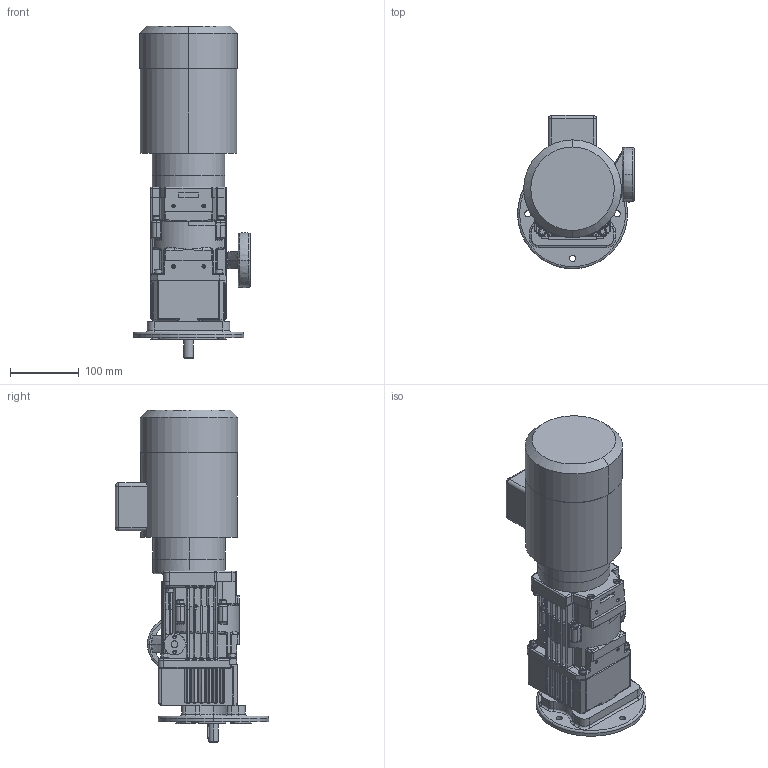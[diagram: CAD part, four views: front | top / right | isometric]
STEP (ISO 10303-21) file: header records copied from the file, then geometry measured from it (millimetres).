
FILE_DESCRIPTION(('CoCreate Modeling STEP Export'),'2;1');
FILE_NAME('R42_B5_HV_Motor_2D_3D.stp','2008-12-02T13:29:42',(''),(''),'CoCreate Modeling STEP processor for AP214 (Solid Model)','CoCreate Modeling 16.00A 16-Aug-2008 (C) Parametric Technology GmbH','');
FILE_SCHEMA(('AUTOMOTIVE_DESIGN { 1 0 10303 214 1 1 1 1 }'));
Products named in the file (3): R42_B5_HV_Motor_2D_3D_1; Motor_71_0_37_4_b14; R42_B5_HV_Motor_2D_3D
Assembly tree (2 placements, depth 2):
  R42_B5_HV_Motor_2D_3D
    Motor_71_0_37_4_b14
    R42_B5_HV_Motor_2D_3D_1
Bounding box: 170 x 222.5 x 482.5 mm (x, y, z)
Volume: 5464820 mm3; surface area: 403753.3 mm2
Topology: 2 solids, 4 shells, 1927 faces, 4736 edges, 2854 vertices
Faces by surface type: cylinder 714, plane 592, bspline 214, torus 207, cone 127, extrusion 51, sphere 22
Entity records: 93987 total; most frequent: CARTESIAN_POINT 54257, ORIENTED_EDGE 9270, DIRECTION 6902, EDGE_CURVE 4634, VERTEX_POINT 2851, AXIS2_PLACEMENT_3D 2459, EDGE_LOOP 2086, VECTOR 1984
